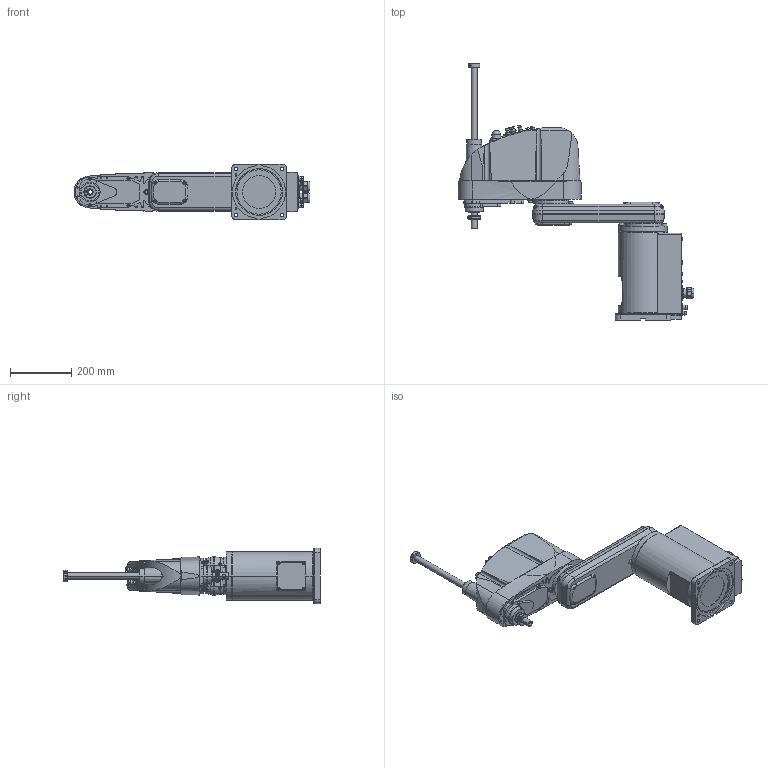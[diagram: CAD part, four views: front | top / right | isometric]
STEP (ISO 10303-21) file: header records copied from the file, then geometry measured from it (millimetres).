
FILE_DESCRIPTION( ( '' ), '1' );
FILE_NAME( '//expscmdclustefs.cadenas.external/client_exchange/iodir/jobs/output/wkb51534789_no0/STEP/G6_553S_2_03.stp', '2012-11-23T09:08:27', ( '' ), ( '' ), ' ', ' ', ' ' );
FILE_SCHEMA( ( 'CONFIG_CONTROL_DESIGN' ) );
Length unit declared in the file: millimetre
Products named in the file (4): 1; 2; 3; 4
Bounding box: 767.5 x 834 x 180 mm (x, y, z)
Volume: 19974590.6 mm3; surface area: 887527.4 mm2
Topology: 4 solids, 4 shells, 1576 faces, 3859 edges, 2484 vertices
Faces by surface type: plane 789, cylinder 533, cone 194, torus 59, sphere 1
Entity records: 49082 total; most frequent: CARTESIAN_POINT 10813, DIRECTION 8240, ORIENTED_EDGE 7666, EDGE_CURVE 3833, AXIS2_PLACEMENT_3D 2989, VERTEX_POINT 2484, LINE 2262, VECTOR 2262
